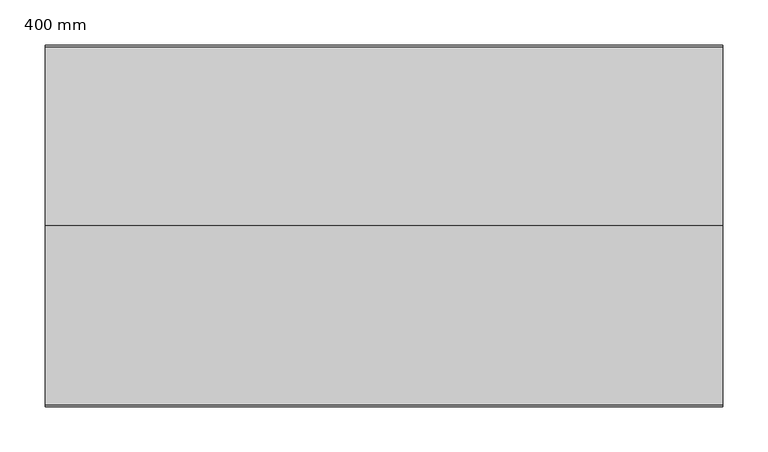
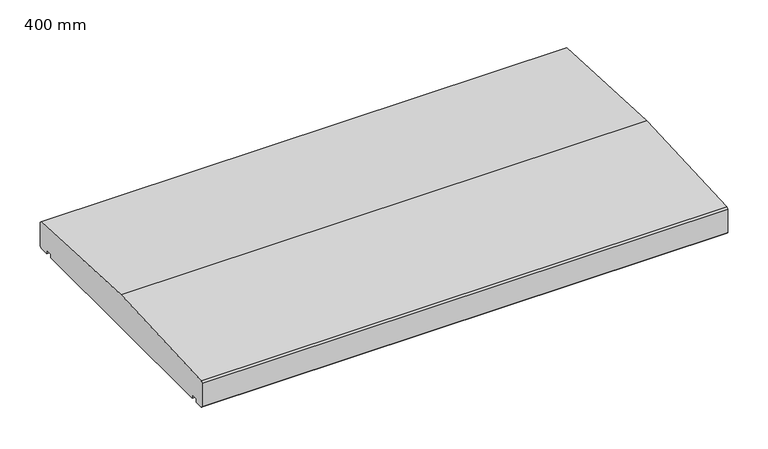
"""IFC4 building model written with IfcOpenShell, lengths in millimetres: proxy geometry, 400_35_NS_afdekker_tweezijdig_afwaterend : 400 mm."""

from ifc_helpers import new_model, si_unit, frame, origin, place, context, project, spatial, polyline, outline, extrude, source, transform, mapped, element, save


def proxy_400_mm_6bae1414(model_context):
    return source(origin(), model_context, "Body", "SweptSolid", [
        extrude(outline(polyline([(400.0, 2.0), (398.0, 0.0), (385.0, 0.0), (385.0, 5.0), (375.0, 5.0), (375.0, 0.0), (25.0, 0.0), (25.0, 5.0), (15.0, 5.0), (15.0, 0.0), (2.0, 0.0), (0.0, 2.0), (0.0, 38.0), (2.0, 40.0), (200.0, 50.0), (398.0, 40.0), (400.0, 38.0), (400.0, 2.0)])), frame((-375.0, 0.0, 0.0), z_axis=(1.0, 0.0, 0.0), x_axis=(0.0, 1.0, 0.0)), (0.0, 0.0, 1.0), 750.0),
    ])


if __name__ == "__main__":
    model = new_model("IFC4")
    model_context = context("Model", 3, world=origin())
    ifc_project = project(units=[si_unit("LENGTHUNIT", "METRE", prefix="MILLI")], contexts=[model_context])
    site = spatial("IfcSite", under=ifc_project)
    building = spatial("IfcBuilding", under=site)
    placement = place(None, origin())
    proxy_400_mm_shape = proxy_400_mm_6bae1414(model_context)
    element("IfcBuildingElementProxy", 1, Name="400_35_NS_afdekker_tweezijdig_afwaterend : 400 mm", ObjectType="400_35_NS_afdekker_tweezijdig_afwaterend : 400 mm", at=placement, inside=building, context=model_context, shape_type="MappedRepresentation", body=[
        mapped(proxy_400_mm_shape, transform((0.0, 0.0, 0.0), x_axis=(1.0, 0.0, 0.0), y_axis=(0.0, 1.0, 0.0), z_axis=(0.0, 0.0, 1.0))),
    ])
    save(model, "model.ifc")
